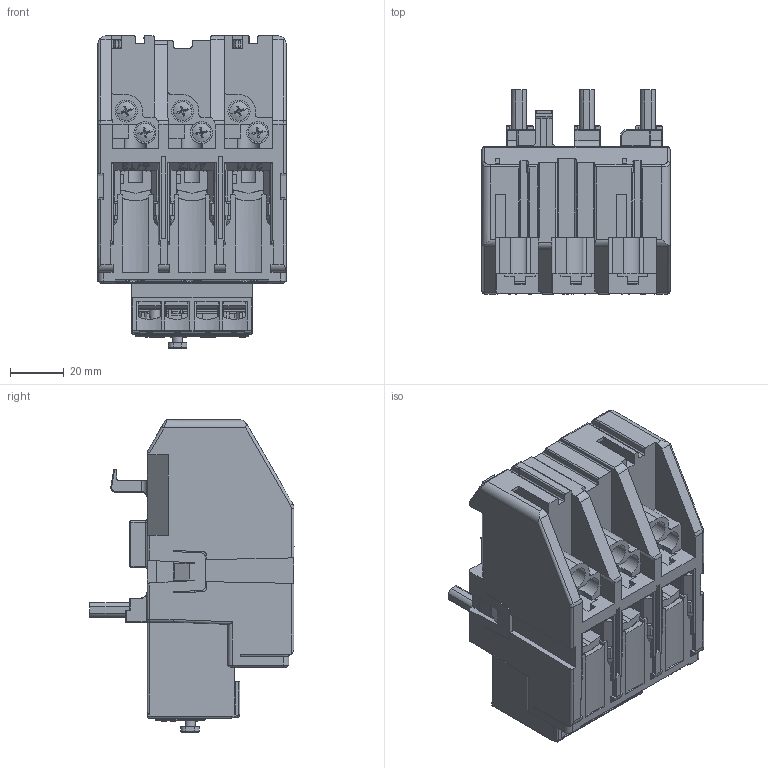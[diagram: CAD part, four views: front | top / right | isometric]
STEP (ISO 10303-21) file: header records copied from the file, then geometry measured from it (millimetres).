
FILE_DESCRIPTION((''),'2;1');
FILE_NAME('NR8-100_80-100A_SW0001','2022-03-22T10:03:09',('yeyang'),(''),'CREO PARAMETRIC BY PTC INC, 2020044','CREO PARAMETRIC BY PTC INC, 2020044','');
FILE_SCHEMA(('CONFIG_CONTROL_DESIGN','SHAPE_APPEARANCE_LAYERS_GROUPS'));
Products named in the file (1): NR8-100_80-100A_SW0001
Bounding box: 70 x 76.1 x 116.2 mm (x, y, z)
Volume: 259825.4 mm3; surface area: 96901.7 mm2
Topology: 7 solids, 7 shells, 4162 faces, 11618 edges, 7412 vertices
Faces by surface type: plane 2937, cylinder 620, cone 311, extrusion 157, torus 66, sphere 40, bspline 31
Entity records: 177415 total; most frequent: CARTESIAN_POINT 40828, ORIENTED_EDGE 23154, DIRECTION 20864, EDGE_CURVE 11577, VECTOR 9292, LINE 9135, VERTEX_POINT 7412, AXIS2_PLACEMENT_3D 5786
